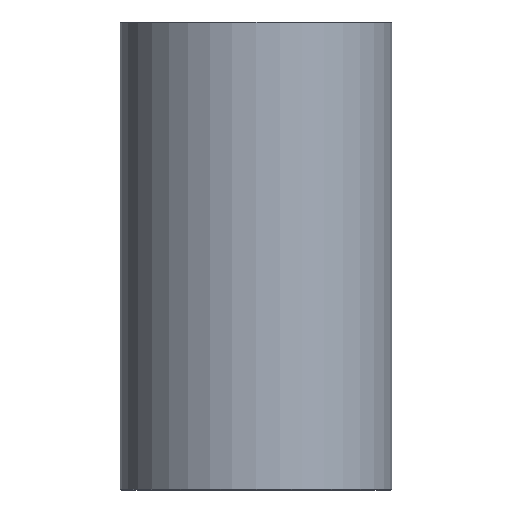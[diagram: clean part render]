
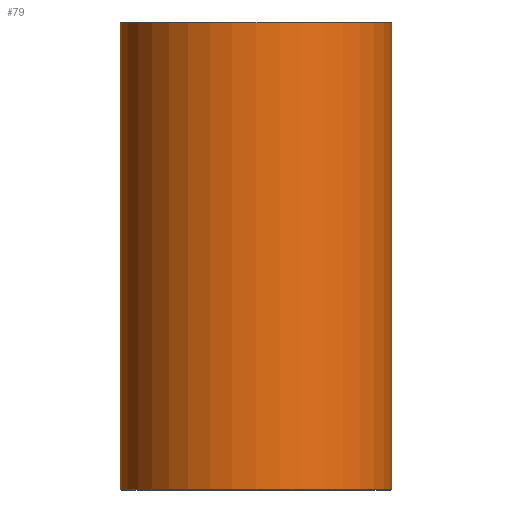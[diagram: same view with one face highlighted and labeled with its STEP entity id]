
A CAD part, front view. The second image highlights one B-rep face of the part: STEP entity #79.
In plain terms, the highlighted cylindrical face has radius 29 mm (diameter 58 mm), a full revolution.
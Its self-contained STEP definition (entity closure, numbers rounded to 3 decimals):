
#79=ADVANCED_FACE('',(#96,#97),#98,.T.);
#96=FACE_OUTER_BOUND('',#120,.T.);
#97=FACE_OUTER_BOUND('',#121,.T.);
#98=CYLINDRICAL_SURFACE('',#122,29.0);
#120=EDGE_LOOP('',(#152));
#121=EDGE_LOOP('',(#153));
#122=AXIS2_PLACEMENT_3D('',#154,#155,#156);
#152=ORIENTED_EDGE('',*,*,#178,.T.);
#153=ORIENTED_EDGE('',*,*,#177,.T.);
#154=CARTESIAN_POINT('',(0.0,0.0,100.0));
#155=DIRECTION('',(0.0,0.0,-1.0));
#156=DIRECTION('',(-1.0,0.0,0.0));
#177=EDGE_CURVE('',#190,#190,#191,.T.);
#178=EDGE_CURVE('',#192,#192,#193,.F.);
#190=VERTEX_POINT('',#206);
#191=CIRCLE('',#207,29.0);
#192=VERTEX_POINT('',#208);
#193=CIRCLE('',#209,29.0);
#206=CARTESIAN_POINT('',(29.0,0.0,0.2));
#207=AXIS2_PLACEMENT_3D('',#227,#228,#229);
#208=CARTESIAN_POINT('',(29.0,0.,99.8));
#209=AXIS2_PLACEMENT_3D('',#230,#231,#232);
#227=CARTESIAN_POINT('',(0.0,0.0,0.2));
#228=DIRECTION('',(0.0,0.0,1.0));
#229=DIRECTION('',(1.0,0.0,0.0));
#230=CARTESIAN_POINT('',(0.0,0.0,99.8));
#231=DIRECTION('',(0.0,0.0,1.0));
#232=DIRECTION('',(1.0,0.0,0.0));
